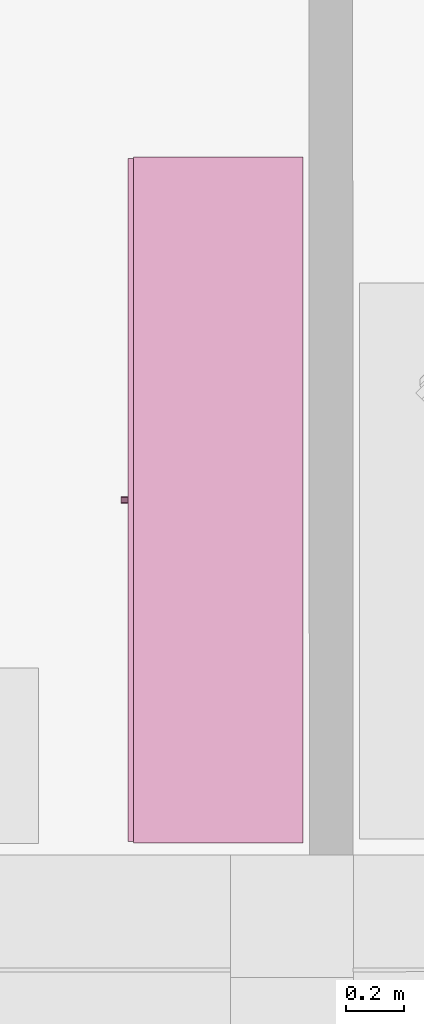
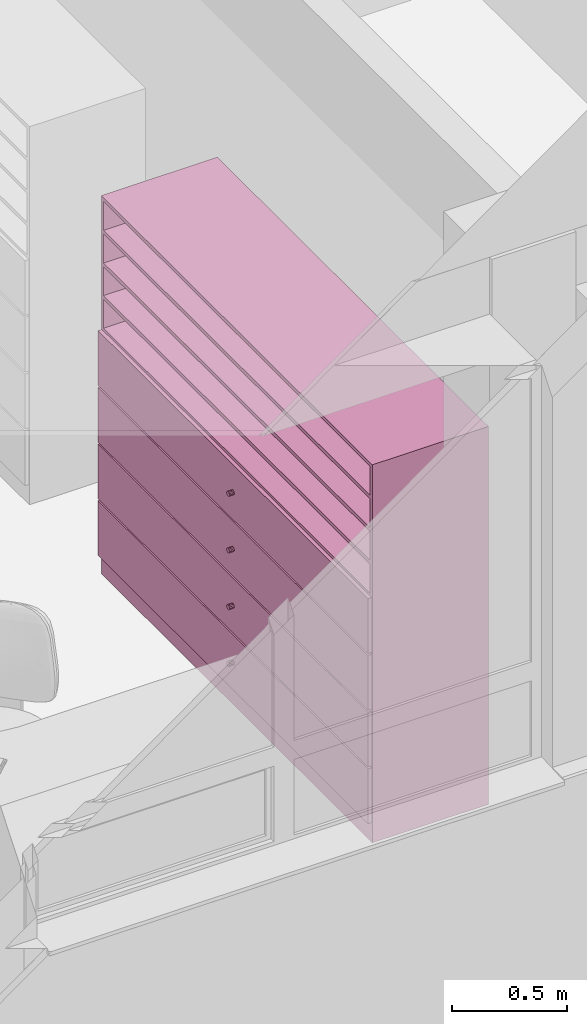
# One storey, part 162 of 194: 1 furnishing.
"""IFC2X3 building model written with IfcOpenShell, lengths in millimetres."""

from ifc_helpers import new_model, entity, si_unit, converted_unit, derived_unit, money_unit, direction, frame, origin_with_axes, place, context, subcontext, project, spatial, faceted_brep, type_object, element, save


model = new_model("IFC2X3")

# Units and contexts
model_context = context("Model", 3, precision=1e-05, world=origin_with_axes(), true_north=direction((0.0, 1.0)))
body_context = subcontext(model_context, "Body", "Model", "MODEL_VIEW")
ifc_project = project(units=[si_unit("LENGTHUNIT", "METRE", prefix="MILLI"), si_unit("AREAUNIT", "SQUARE_METRE"), si_unit("VOLUMEUNIT", "CUBIC_METRE"), converted_unit("PLANEANGLEUNIT", "DEGREE", entity("IfcPlaneAngleMeasure", 0.0174532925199), si_unit("PLANEANGLEUNIT", "RADIAN"), dimensions=[0, 0, 0, 0, 0, 0, 0]), si_unit("SOLIDANGLEUNIT", "STERADIAN"), money_unit("EUR"), converted_unit("TIMEUNIT", "Year", entity("IfcTimeMeasure", 31556926.0), si_unit("TIMEUNIT", "SECOND"), dimensions=[0, 0, 1, 0, 0, 0, 0]), si_unit("MASSUNIT", "GRAM", prefix="KILO"), si_unit("THERMODYNAMICTEMPERATUREUNIT", "DEGREE_CELSIUS"), si_unit("LUMINOUSINTENSITYUNIT", "LUMEN"), si_unit("ENERGYUNIT", "JOULE", prefix="MEGA"), derived_unit("THERMALCONDUCTANCEUNIT", [(si_unit("POWERUNIT", "WATT"), 1), (si_unit("LENGTHUNIT", "METRE"), -1), (si_unit("THERMODYNAMICTEMPERATUREUNIT", "KELVIN"), -1)]), derived_unit("SPECIFICHEATCAPACITYUNIT", [(si_unit("ENERGYUNIT", "JOULE"), 1), (si_unit("MASSUNIT", "GRAM", prefix="KILO"), -1), (si_unit("THERMODYNAMICTEMPERATUREUNIT", "KELVIN"), -1)]), derived_unit("MASSDENSITYUNIT", [(si_unit("MASSUNIT", "GRAM", prefix="KILO"), 1), (si_unit("VOLUMEUNIT", "CUBIC_METRE"), -1)])], contexts=[model_context])

# Site, building, storey
site_placement = place(None, origin_with_axes())
site = spatial("IfcSite", under=ifc_project, at=site_placement, Name="Site", CompositionType="ELEMENT")
building_placement = place(site_placement, origin_with_axes())
building = spatial("IfcBuilding", under=site, at=building_placement, Name="Building", CompositionType="ELEMENT")
storey_placement = place(building_placement, frame((0.0, 0.0, 3000.0), z_axis=(0.0, 0.0, 1.0), x_axis=(1.0, 0.0, 0.0)))
storey = spatial("IfcBuildingStorey", under=building, at=storey_placement, Name="2 KORRUS", CompositionType="ELEMENT", Elevation=3000.0)

# Furnishing
furnishing_element_type = type_object("IfcFurnishingElementType", Name="Model Element 26")
furnishing_placement = place(storey_placement, frame((27382.7821994, 62128.8229014, 0.0), z_axis=(0.0, 0.0, 1.0), x_axis=(0.0, -1.0, 0.0)))
element("IfcFurnishingElement", 1, at=furnishing_placement, inside=storey, type_object=furnishing_element_type, Name="FU - 001", context=body_context, shape_type="Brep", body=[
    faceted_brep([(2349.52426279, 19.0, 0.0), (0.0, 19.0, 0.0), (0.0, 600.0, 0.0), (2349.52426279, 600.0, 0.0), (2349.52426279, 19.0, 100.0), (0.0, 19.0, 100.0), (0.0, 600.0, 100.0), (2349.52426279, 600.0, 100.0)], [[[0, 1, 2, 3]], [[1, 0, 4, 5]], [[2, 1, 5, 6]], [[3, 2, 6, 7]], [[0, 3, 7, 4]], [[5, 4, 7, 6]]]),
    faceted_brep([(19.0, 600.0, 119.0), (19.0, 581.0, 119.0), (19.0, 581.0, 1981.0), (19.0, 600.0, 1981.0), (2330.52426279, 600.0, 119.0), (2330.52426279, 581.0, 119.0), (2330.52426279, 581.0, 1981.0), (2330.52426279, 600.0, 1981.0)], [[[0, 1, 2, 3]], [[0, 4, 5, 1]], [[1, 5, 6, 2]], [[3, 2, 6, 7]], [[4, 0, 3, 7]], [[5, 4, 7, 6]]]),
    faceted_brep([(2349.52426279, 19.0, 100.0), (2330.52426279, 19.0, 100.0), (2330.52426279, 600.0, 100.0), (2349.52426279, 600.0, 100.0), (2349.52426279, 19.0, 2000.0), (2330.52426279, 19.0, 2000.0), (2330.52426279, 600.0, 2000.0), (2349.52426279, 600.0, 2000.0)], [[[0, 1, 2, 3]], [[1, 0, 4, 5]], [[2, 1, 5, 6]], [[3, 2, 6, 7]], [[0, 3, 7, 4]], [[5, 4, 7, 6]]]),
    faceted_brep([(19.0, 19.0, 100.0), (0.0, 19.0, 100.0), (0.0, 600.0, 100.0), (19.0, 600.0, 100.0), (19.0, 19.0, 2000.0), (0.0, 19.0, 2000.0), (0.0, 600.0, 2000.0), (19.0, 600.0, 2000.0)], [[[0, 1, 2, 3]], [[1, 0, 4, 5]], [[2, 1, 5, 6]], [[3, 2, 6, 7]], [[0, 3, 7, 4]], [[5, 4, 7, 6]]]),
    faceted_brep([(2330.52426279, 19.0, 100.0), (19.0, 19.0, 100.0), (19.0, 600.0, 100.0), (2330.52426279, 600.0, 100.0), (2330.52426279, 19.0, 119.0), (19.0, 19.0, 119.0), (19.0, 600.0, 119.0), (2330.52426279, 600.0, 119.0)], [[[0, 1, 2, 3]], [[1, 0, 4, 5]], [[2, 1, 5, 6]], [[3, 2, 6, 7]], [[0, 3, 7, 4]], [[5, 4, 7, 6]]]),
    faceted_brep([(2330.52426279, 19.0, 1981.0), (19.0, 19.0, 1981.0), (19.0, 600.0, 1981.0), (2330.52426279, 600.0, 1981.0), (2330.52426279, 19.0, 2000.0), (19.0, 19.0, 2000.0), (19.0, 600.0, 2000.0), (2330.52426279, 600.0, 2000.0)], [[[0, 1, 2, 3]], [[1, 0, 4, 5]], [[2, 1, 5, 6]], [[3, 2, 6, 7]], [[0, 3, 7, 4]], [[5, 4, 7, 6]]]),
    faceted_brep([(5.0, 19.0, 105.0), (2344.52426279, 19.0, 105.0), (2344.52426279, 0.0, 105.0), (5.0, 0.0, 105.0), (5.0, 19.0, 395.0), (2344.52426279, 19.0, 395.0), (2344.52426279, 0.0, 395.0), (5.0, 0.0, 395.0)], [[[0, 1, 2, 3]], [[0, 4, 5, 1]], [[1, 5, 6, 2]], [[3, 2, 6, 7]], [[4, 0, 3, 7]], [[5, 4, 7, 6]]]),
    faceted_brep([(1185.15443624, 0.0, 244.0), (1180.76213139, 0.0, 239.607695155), (1174.76213139, 0.0, 238.0), (1168.76213139, 0.0, 239.607695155), (1164.36982655, 0.0, 244.0), (1162.76213139, 0.0, 250.0), (1164.36982655, 0.0, 256.0), (1168.76213139, 0.0, 260.392304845), (1174.76213139, 0.0, 262.0), (1180.76213139, 0.0, 260.392304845), (1185.15443624, 0.0, 256.0), (1186.76213139, 0.0, 250.0), (1185.15443624, -25.0, 244.0), (1180.76213139, -25.0, 239.607695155), (1174.76213139, -25.0, 238.0), (1168.76213139, -25.0, 239.607695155), (1164.36982655, -25.0, 244.0), (1162.76213139, -25.0, 250.0), (1164.36982655, -25.0, 256.0), (1168.76213139, -25.0, 260.392304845), (1174.76213139, -25.0, 262.0), (1180.76213139, -25.0, 260.392304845), (1185.15443624, -25.0, 256.0), (1186.76213139, -25.0, 250.0)], [[[0, 1, 2, 3, 4, 5, 6, 7, 8, 9, 10, 11]], [[1, 0, 12, 13]], [[2, 1, 13, 14]], [[3, 2, 14, 15]], [[4, 3, 15, 16]], [[5, 4, 16, 17]], [[6, 5, 17, 18]], [[7, 6, 18, 19]], [[8, 7, 19, 20]], [[9, 8, 20, 21]], [[10, 9, 21, 22]], [[11, 10, 22, 23]], [[0, 11, 23, 12]], [[12, 23, 22, 21, 20, 19, 18, 17, 16, 15, 14, 13]]]),
    faceted_brep([(5.0, 19.0, 405.0), (2344.52426279, 19.0, 405.0), (2344.52426279, 0.0, 405.0), (5.0, 0.0, 405.0), (5.0, 19.0, 695.0), (2344.52426279, 19.0, 695.0), (2344.52426279, 0.0, 695.0), (5.0, 0.0, 695.0)], [[[0, 1, 2, 3]], [[0, 4, 5, 1]], [[1, 5, 6, 2]], [[3, 2, 6, 7]], [[4, 0, 3, 7]], [[5, 4, 7, 6]]]),
    faceted_brep([(1185.15443624, 0.0, 544.0), (1180.76213139, 0.0, 539.607695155), (1174.76213139, 0.0, 538.0), (1168.76213139, 0.0, 539.607695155), (1164.36982655, 0.0, 544.0), (1162.76213139, 0.0, 550.0), (1164.36982655, 0.0, 556.0), (1168.76213139, 0.0, 560.392304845), (1174.76213139, 0.0, 562.0), (1180.76213139, 0.0, 560.392304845), (1185.15443624, 0.0, 556.0), (1186.76213139, 0.0, 550.0), (1185.15443624, -25.0, 544.0), (1180.76213139, -25.0, 539.607695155), (1174.76213139, -25.0, 538.0), (1168.76213139, -25.0, 539.607695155), (1164.36982655, -25.0, 544.0), (1162.76213139, -25.0, 550.0), (1164.36982655, -25.0, 556.0), (1168.76213139, -25.0, 560.392304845), (1174.76213139, -25.0, 562.0), (1180.76213139, -25.0, 560.392304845), (1185.15443624, -25.0, 556.0), (1186.76213139, -25.0, 550.0)], [[[0, 1, 2, 3, 4, 5, 6, 7, 8, 9, 10, 11]], [[1, 0, 12, 13]], [[2, 1, 13, 14]], [[3, 2, 14, 15]], [[4, 3, 15, 16]], [[5, 4, 16, 17]], [[6, 5, 17, 18]], [[7, 6, 18, 19]], [[8, 7, 19, 20]], [[9, 8, 20, 21]], [[10, 9, 21, 22]], [[11, 10, 22, 23]], [[0, 11, 23, 12]], [[12, 23, 22, 21, 20, 19, 18, 17, 16, 15, 14, 13]]]),
    faceted_brep([(5.0, 19.0, 705.0), (2344.52426279, 19.0, 705.0), (2344.52426279, 0.0, 705.0), (5.0, 0.0, 705.0), (5.0, 19.0, 995.0), (2344.52426279, 19.0, 995.0), (2344.52426279, 0.0, 995.0), (5.0, 0.0, 995.0)], [[[0, 1, 2, 3]], [[0, 4, 5, 1]], [[1, 5, 6, 2]], [[3, 2, 6, 7]], [[4, 0, 3, 7]], [[5, 4, 7, 6]]]),
    faceted_brep([(1185.15443624, 0.0, 844.0), (1180.76213139, 0.0, 839.607695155), (1174.76213139, 0.0, 838.0), (1168.76213139, 0.0, 839.607695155), (1164.36982655, 0.0, 844.0), (1162.76213139, 0.0, 850.0), (1164.36982655, 0.0, 856.0), (1168.76213139, 0.0, 860.392304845), (1174.76213139, 0.0, 862.0), (1180.76213139, 0.0, 860.392304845), (1185.15443624, 0.0, 856.0), (1186.76213139, 0.0, 850.0), (1185.15443624, -25.0, 844.0), (1180.76213139, -25.0, 839.607695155), (1174.76213139, -25.0, 838.0), (1168.76213139, -25.0, 839.607695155), (1164.36982655, -25.0, 844.0), (1162.76213139, -25.0, 850.0), (1164.36982655, -25.0, 856.0), (1168.76213139, -25.0, 860.392304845), (1174.76213139, -25.0, 862.0), (1180.76213139, -25.0, 860.392304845), (1185.15443624, -25.0, 856.0), (1186.76213139, -25.0, 850.0)], [[[0, 1, 2, 3, 4, 5, 6, 7, 8, 9, 10, 11]], [[1, 0, 12, 13]], [[2, 1, 13, 14]], [[3, 2, 14, 15]], [[4, 3, 15, 16]], [[5, 4, 16, 17]], [[6, 5, 17, 18]], [[7, 6, 18, 19]], [[8, 7, 19, 20]], [[9, 8, 20, 21]], [[10, 9, 21, 22]], [[11, 10, 22, 23]], [[0, 11, 23, 12]], [[12, 23, 22, 21, 20, 19, 18, 17, 16, 15, 14, 13]]]),
    faceted_brep([(5.0, 19.0, 1005.0), (2344.52426279, 19.0, 1005.0), (2344.52426279, 0.0, 1005.0), (5.0, 0.0, 1005.0), (5.0, 19.0, 1295.0), (2344.52426279, 19.0, 1295.0), (2344.52426279, 0.0, 1295.0), (5.0, 0.0, 1295.0)], [[[0, 1, 2, 3]], [[0, 4, 5, 1]], [[1, 5, 6, 2]], [[3, 2, 6, 7]], [[4, 0, 3, 7]], [[5, 4, 7, 6]]]),
    faceted_brep([(1185.15443624, 0.0, 1144.0), (1180.76213139, 0.0, 1139.60769515), (1174.76213139, 0.0, 1138.0), (1168.76213139, 0.0, 1139.60769515), (1164.36982655, 0.0, 1144.0), (1162.76213139, 0.0, 1150.0), (1164.36982655, 0.0, 1156.0), (1168.76213139, 0.0, 1160.39230485), (1174.76213139, 0.0, 1162.0), (1180.76213139, 0.0, 1160.39230485), (1185.15443624, 0.0, 1156.0), (1186.76213139, 0.0, 1150.0), (1185.15443624, -25.0, 1144.0), (1180.76213139, -25.0, 1139.60769515), (1174.76213139, -25.0, 1138.0), (1168.76213139, -25.0, 1139.60769515), (1164.36982655, -25.0, 1144.0), (1162.76213139, -25.0, 1150.0), (1164.36982655, -25.0, 1156.0), (1168.76213139, -25.0, 1160.39230485), (1174.76213139, -25.0, 1162.0), (1180.76213139, -25.0, 1160.39230485), (1185.15443624, -25.0, 1156.0), (1186.76213139, -25.0, 1150.0)], [[[0, 1, 2, 3, 4, 5, 6, 7, 8, 9, 10, 11]], [[1, 0, 12, 13]], [[2, 1, 13, 14]], [[3, 2, 14, 15]], [[4, 3, 15, 16]], [[5, 4, 16, 17]], [[6, 5, 17, 18]], [[7, 6, 18, 19]], [[8, 7, 19, 20]], [[9, 8, 20, 21]], [[10, 9, 21, 22]], [[11, 10, 22, 23]], [[0, 11, 23, 12]], [[12, 23, 22, 21, 20, 19, 18, 17, 16, 15, 14, 13]]]),
    faceted_brep([(19.0, 19.0, 390.5), (2330.52426279, 19.0, 390.5), (2330.52426279, 19.0, 409.5), (19.0, 19.0, 409.5), (19.0, 581.0, 390.5), (2330.52426279, 581.0, 390.5), (2330.52426279, 581.0, 409.5), (19.0, 581.0, 409.5)], [[[0, 1, 2, 3]], [[0, 4, 5, 1]], [[1, 5, 6, 2]], [[3, 2, 6, 7]], [[4, 0, 3, 7]], [[5, 4, 7, 6]]]),
    faceted_brep([(19.0, 19.0, 690.5), (2330.52426279, 19.0, 690.5), (2330.52426279, 19.0, 709.5), (19.0, 19.0, 709.5), (19.0, 581.0, 690.5), (2330.52426279, 581.0, 690.5), (2330.52426279, 581.0, 709.5), (19.0, 581.0, 709.5)], [[[0, 1, 2, 3]], [[0, 4, 5, 1]], [[1, 5, 6, 2]], [[3, 2, 6, 7]], [[4, 0, 3, 7]], [[5, 4, 7, 6]]]),
    faceted_brep([(19.0, 19.0, 990.5), (2330.52426279, 19.0, 990.5), (2330.52426279, 19.0, 1009.5), (19.0, 19.0, 1009.5), (19.0, 581.0, 990.5), (2330.52426279, 581.0, 990.5), (2330.52426279, 581.0, 1009.5), (19.0, 581.0, 1009.5)], [[[0, 1, 2, 3]], [[0, 4, 5, 1]], [[1, 5, 6, 2]], [[3, 2, 6, 7]], [[4, 0, 3, 7]], [[5, 4, 7, 6]]]),
    faceted_brep([(19.0, 19.0, 1290.5), (2330.52426279, 19.0, 1290.5), (2330.52426279, 19.0, 1309.5), (19.0, 19.0, 1309.5), (19.0, 581.0, 1290.5), (2330.52426279, 581.0, 1290.5), (2330.52426279, 581.0, 1309.5), (19.0, 581.0, 1309.5)], [[[0, 1, 2, 3]], [[0, 4, 5, 1]], [[1, 5, 6, 2]], [[3, 2, 6, 7]], [[4, 0, 3, 7]], [[5, 4, 7, 6]]]),
    faceted_brep([(2330.52426279, 19.0, 1463.125), (19.0, 19.0, 1463.125), (19.0, 581.0, 1463.125), (2330.52426279, 581.0, 1463.125), (2330.52426279, 19.0, 1482.125), (19.0, 19.0, 1482.125), (19.0, 581.0, 1482.125), (2330.52426279, 581.0, 1482.125)], [[[0, 1, 2, 3]], [[1, 0, 4, 5]], [[2, 1, 5, 6]], [[3, 2, 6, 7]], [[0, 3, 7, 4]], [[5, 4, 7, 6]]]),
    faceted_brep([(2330.52426279, 19.0, 1635.75), (19.0, 19.0, 1635.75), (19.0, 581.0, 1635.75), (2330.52426279, 581.0, 1635.75), (2330.52426279, 19.0, 1654.75), (19.0, 19.0, 1654.75), (19.0, 581.0, 1654.75), (2330.52426279, 581.0, 1654.75)], [[[0, 1, 2, 3]], [[1, 0, 4, 5]], [[2, 1, 5, 6]], [[3, 2, 6, 7]], [[0, 3, 7, 4]], [[5, 4, 7, 6]]]),
    faceted_brep([(2330.52426279, 19.0, 1808.375), (19.0, 19.0, 1808.375), (19.0, 581.0, 1808.375), (2330.52426279, 581.0, 1808.375), (2330.52426279, 19.0, 1827.375), (19.0, 19.0, 1827.375), (19.0, 581.0, 1827.375), (2330.52426279, 581.0, 1827.375)], [[[0, 1, 2, 3]], [[1, 0, 4, 5]], [[2, 1, 5, 6]], [[3, 2, 6, 7]], [[0, 3, 7, 4]], [[5, 4, 7, 6]]]),
])

save(model, "model.ifc")
